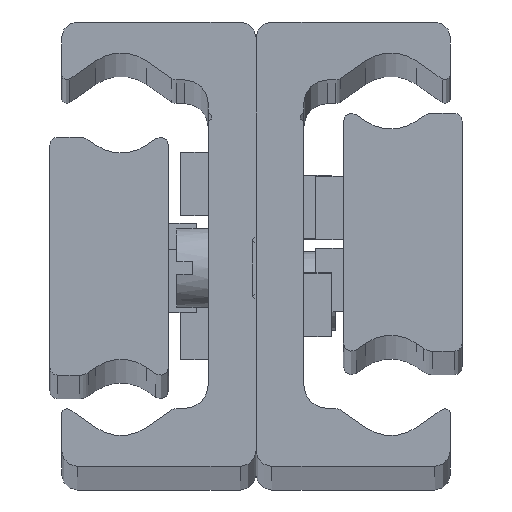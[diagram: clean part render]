
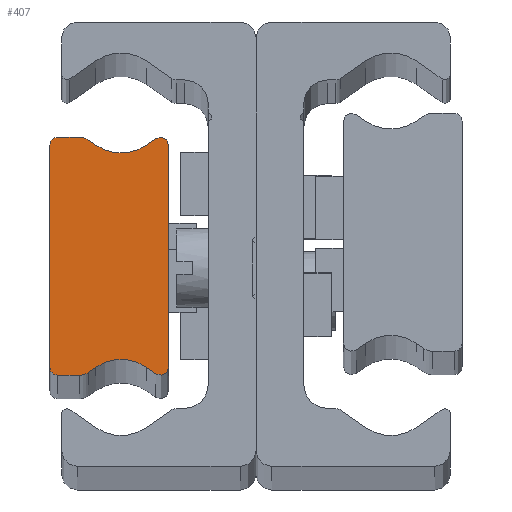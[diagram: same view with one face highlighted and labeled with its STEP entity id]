
A CAD part, top view. The second image highlights one B-rep face of the part: STEP entity #407.
In plain terms, the highlighted planar face has unit normal (0, 0, 1) as drawn and (0, 0, -1) by its records, which use the part's own axes.
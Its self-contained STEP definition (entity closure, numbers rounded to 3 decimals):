
#407 = ADVANCED_FACE( '', ( #920 ), #921, .F. );
#920 = FACE_OUTER_BOUND( '', #1562, .T. );
#921 = PLANE( '', #1563 );
#1562 = EDGE_LOOP( '', ( #2524, #2525, #2526, #2527, #2528, #2529, #2530, #2531, #2532, #2533, #2534, #2535, #2536, #2537, #2538, #2539 ) );
#1563 = AXIS2_PLACEMENT_3D( '', #2540, #2541, #2542 );
#2524 = ORIENTED_EDGE( '', *, *, #3552, .F. );
#2525 = ORIENTED_EDGE( '', *, *, #3620, .F. );
#2526 = ORIENTED_EDGE( '', *, *, #3621, .F. );
#2527 = ORIENTED_EDGE( '', *, *, #3456, .F. );
#2528 = ORIENTED_EDGE( '', *, *, #3622, .F. );
#2529 = ORIENTED_EDGE( '', *, *, #3521, .T. );
#2530 = ORIENTED_EDGE( '', *, *, #3623, .F. );
#2531 = ORIENTED_EDGE( '', *, *, #3610, .F. );
#2532 = ORIENTED_EDGE( '', *, *, #3624, .F. );
#2533 = ORIENTED_EDGE( '', *, *, #3540, .F. );
#2534 = ORIENTED_EDGE( '', *, *, #3625, .F. );
#2535 = ORIENTED_EDGE( '', *, *, #3626, .T. );
#2536 = ORIENTED_EDGE( '', *, *, #3374, .F. );
#2537 = ORIENTED_EDGE( '', *, *, #3627, .F. );
#2538 = ORIENTED_EDGE( '', *, *, #3628, .F. );
#2539 = ORIENTED_EDGE( '', *, *, #3516, .F. );
#2540 = CARTESIAN_POINT( '', ( 0.5, -7., -850. ) );
#2541 = DIRECTION( '', ( 0., 0., 1. ) );
#2542 = DIRECTION( '', ( 1., 0., 0. ) );
#3374 = EDGE_CURVE( '', #3955, #3957, #3958, .T. );
#3456 = EDGE_CURVE( '', #4094, #4096, #4097, .T. );
#3516 = EDGE_CURVE( '', #4197, #4199, #4200, .T. );
#3521 = EDGE_CURVE( '', #4208, #4206, #4209, .T. );
#3540 = EDGE_CURVE( '', #4237, #4239, #4240, .T. );
#3552 = EDGE_CURVE( '', #4259, #4197, #4261, .T. );
#3610 = EDGE_CURVE( '', #4341, #4343, #4344, .T. );
#3620 = EDGE_CURVE( '', #4358, #4259, #4359, .T. );
#3621 = EDGE_CURVE( '', #4096, #4358, #4360, .T. );
#3622 = EDGE_CURVE( '', #4208, #4094, #4361, .T. );
#3623 = EDGE_CURVE( '', #4343, #4206, #4362, .T. );
#3624 = EDGE_CURVE( '', #4239, #4341, #4363, .T. );
#3625 = EDGE_CURVE( '', #4364, #4237, #4365, .T. );
#3626 = EDGE_CURVE( '', #4364, #3957, #4366, .T. );
#3627 = EDGE_CURVE( '', #4367, #3955, #4368, .T. );
#3628 = EDGE_CURVE( '', #4199, #4367, #4369, .T. );
#3955 = VERTEX_POINT( '', #4771 );
#3957 = VERTEX_POINT( '', #4774 );
#3958 = LINE( '', #4775, #4776 );
#4094 = VERTEX_POINT( '', #4957 );
#4096 = VERTEX_POINT( '', #4960 );
#4097 = CIRCLE( '', #4961, 1. );
#4197 = VERTEX_POINT( '', #5085 );
#4199 = VERTEX_POINT( '', #5088 );
#4200 = CIRCLE( '', #5089, 0.5 );
#4206 = VERTEX_POINT( '', #5096 );
#4208 = VERTEX_POINT( '', #5099 );
#4209 = CIRCLE( '', #5100, 2.778 );
#4237 = VERTEX_POINT( '', #5135 );
#4239 = VERTEX_POINT( '', #5138 );
#4240 = CIRCLE( '', #5139, 0.523 );
#4259 = VERTEX_POINT( '', #5160 );
#4261 = LINE( '', #5163, #5164 );
#4341 = VERTEX_POINT( '', #5261 );
#4343 = VERTEX_POINT( '', #5264 );
#4344 = CIRCLE( '', #5265, 0.523 );
#4358 = VERTEX_POINT( '', #5283 );
#4359 = CIRCLE( '', #5284, 0.5 );
#4360 = LINE( '', #5285, #5286 );
#4361 = LINE( '', #5287, #5288 );
#4362 = LINE( '', #5289, #5290 );
#4363 = LINE( '', #5291, #5292 );
#4364 = VERTEX_POINT( '', #5293 );
#4365 = LINE( '', #5294, #5295 );
#4366 = CIRCLE( '', #5296, 2.778 );
#4367 = VERTEX_POINT( '', #5297 );
#4368 = CIRCLE( '', #5298, 1. );
#4369 = LINE( '', #5299, #5300 );
#4771 = CARTESIAN_POINT( '', ( 2.446, -7.319, -850. ) );
#4774 = CARTESIAN_POINT( '', ( 2.907, -6.997, -850. ) );
#4775 = CARTESIAN_POINT( '', ( 2.446, -7.319, -850. ) );
#4776 = VECTOR( '', #5701, 1000. );
#4957 = CARTESIAN_POINT( '', ( 2.446, 7.319, -850. ) );
#4960 = CARTESIAN_POINT( '', ( 1.873, 7.5, -850. ) );
#4961 = AXIS2_PLACEMENT_3D( '', #5808, #5809, #5810 );
#5085 = CARTESIAN_POINT( '', ( 0., -7., -850. ) );
#5088 = CARTESIAN_POINT( '', ( 0.5, -7.5, -850. ) );
#5089 = AXIS2_PLACEMENT_3D( '', #5902, #5903, #5904 );
#5096 = CARTESIAN_POINT( '', ( 6.093, 6.997, -850. ) );
#5099 = CARTESIAN_POINT( '', ( 2.907, 6.997, -850. ) );
#5100 = AXIS2_PLACEMENT_3D( '', #5910, #5911, #5912 );
#5135 = CARTESIAN_POINT( '', ( 6.677, -7.405, -850. ) );
#5138 = CARTESIAN_POINT( '', ( 7.5, -6.977, -850. ) );
#5139 = AXIS2_PLACEMENT_3D( '', #5933, #5934, #5935 );
#5160 = CARTESIAN_POINT( '', ( 0., 7., -850. ) );
#5163 = CARTESIAN_POINT( '', ( 0., 7., -850. ) );
#5164 = VECTOR( '', #5960, 1000. );
#5261 = CARTESIAN_POINT( '', ( 7.5, 6.977, -850. ) );
#5264 = CARTESIAN_POINT( '', ( 6.677, 7.405, -850. ) );
#5265 = AXIS2_PLACEMENT_3D( '', #6039, #6040, #6041 );
#5283 = CARTESIAN_POINT( '', ( 0.5, 7.5, -850. ) );
#5284 = AXIS2_PLACEMENT_3D( '', #6052, #6053, #6054 );
#5285 = CARTESIAN_POINT( '', ( 1.873, 7.5, -850. ) );
#5286 = VECTOR( '', #6055, 1000. );
#5287 = CARTESIAN_POINT( '', ( 2.907, 6.997, -850. ) );
#5288 = VECTOR( '', #6056, 1000. );
#5289 = CARTESIAN_POINT( '', ( 6.677, 7.405, -850. ) );
#5290 = VECTOR( '', #6057, 1000. );
#5291 = CARTESIAN_POINT( '', ( 7.5, -6.977, -850. ) );
#5292 = VECTOR( '', #6058, 1000. );
#5293 = CARTESIAN_POINT( '', ( 6.093, -6.997, -850. ) );
#5294 = CARTESIAN_POINT( '', ( 6.093, -6.997, -850. ) );
#5295 = VECTOR( '', #6059, 1000. );
#5296 = AXIS2_PLACEMENT_3D( '', #6060, #6061, #6062 );
#5297 = CARTESIAN_POINT( '', ( 1.873, -7.5, -850. ) );
#5298 = AXIS2_PLACEMENT_3D( '', #6063, #6064, #6065 );
#5299 = CARTESIAN_POINT( '', ( 0.5, -7.5, -850. ) );
#5300 = VECTOR( '', #6066, 1000. );
#5701 = DIRECTION( '', ( 0.819, 0.574, 0. ) );
#5808 = CARTESIAN_POINT( '', ( 1.873, 6.5, -850. ) );
#5809 = DIRECTION( '', ( 0., 0., 1. ) );
#5810 = DIRECTION( '', ( 1., 0., 0. ) );
#5902 = CARTESIAN_POINT( '', ( 0.5, -7., -850. ) );
#5903 = DIRECTION( '', ( 0., 0., 1. ) );
#5904 = DIRECTION( '', ( 1., 0., 0. ) );
#5910 = CARTESIAN_POINT( '', ( 4.5, 9.272, -850. ) );
#5911 = DIRECTION( '', ( 0., 0., 1. ) );
#5912 = DIRECTION( '', ( 1., 0., 0. ) );
#5933 = CARTESIAN_POINT( '', ( 6.977, -6.977, -850. ) );
#5934 = DIRECTION( '', ( 0., 0., 1. ) );
#5935 = DIRECTION( '', ( 1., 0., 0. ) );
#5960 = DIRECTION( '', ( 0., -1., 0. ) );
#6039 = CARTESIAN_POINT( '', ( 6.977, 6.977, -850. ) );
#6040 = DIRECTION( '', ( 0., 0., 1. ) );
#6041 = DIRECTION( '', ( 1., 0., 0. ) );
#6052 = CARTESIAN_POINT( '', ( 0.5, 7., -850. ) );
#6053 = DIRECTION( '', ( 0., 0., 1. ) );
#6054 = DIRECTION( '', ( 1., 0., 0. ) );
#6055 = DIRECTION( '', ( -1., 0., 0. ) );
#6056 = DIRECTION( '', ( -0.819, 0.574, 0. ) );
#6057 = DIRECTION( '', ( -0.819, -0.574, 0. ) );
#6058 = DIRECTION( '', ( 0., 1., 0. ) );
#6059 = DIRECTION( '', ( 0.819, -0.574, 0. ) );
#6060 = CARTESIAN_POINT( '', ( 4.5, -9.272, -850. ) );
#6061 = DIRECTION( '', ( 0., 0., 1. ) );
#6062 = DIRECTION( '', ( 1., 0., 0. ) );
#6063 = CARTESIAN_POINT( '', ( 1.873, -6.5, -850. ) );
#6064 = DIRECTION( '', ( 0., 0., 1. ) );
#6065 = DIRECTION( '', ( 1., 0., 0. ) );
#6066 = DIRECTION( '', ( 1., 0., 0. ) );
